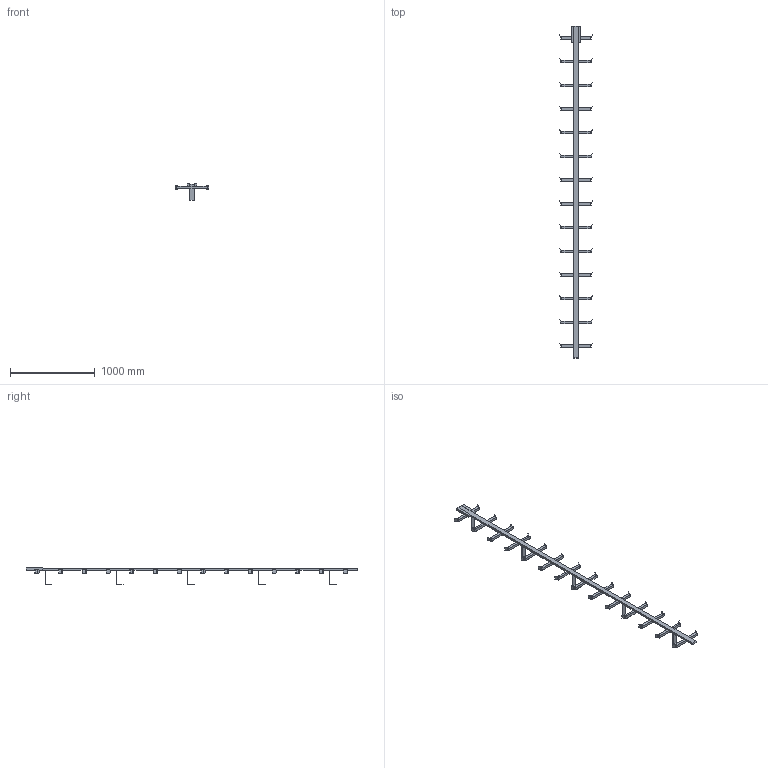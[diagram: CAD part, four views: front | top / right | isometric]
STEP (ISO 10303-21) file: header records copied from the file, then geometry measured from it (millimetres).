
FILE_DESCRIPTION((''),'2;1');
FILE_NAME('017_000114','2017-08-01T',('set'),('HUBER SE'),'PRO/ENGINEER BY PARAMETRIC TECHNOLOGY CORPORATION, 2015280','PRO/ENGINEER BY PARAMETRIC TECHNOLOGY CORPORATION, 2015280','');
FILE_SCHEMA(('CONFIG_CONTROL_DESIGN'));
Length unit declared in the file: millimetre
Products named in the file (1): 017_000114
Bounding box: 394 x 3920 x 195 mm (x, y, z)
Volume: 10560250.1 mm3; surface area: 1459594.8 mm2
Topology: 1 solids, 1 shells, 395 faces, 1207 edges, 819 vertices
Faces by surface type: plane 395
Entity records: 13018 total; most frequent: CARTESIAN_POINT 2462, ORIENTED_EDGE 2212, DIRECTION 1952, VECTOR 1160, LINE 1160, EDGE_CURVE 1106, VERTEX_POINT 718, EDGE_LOOP 400
